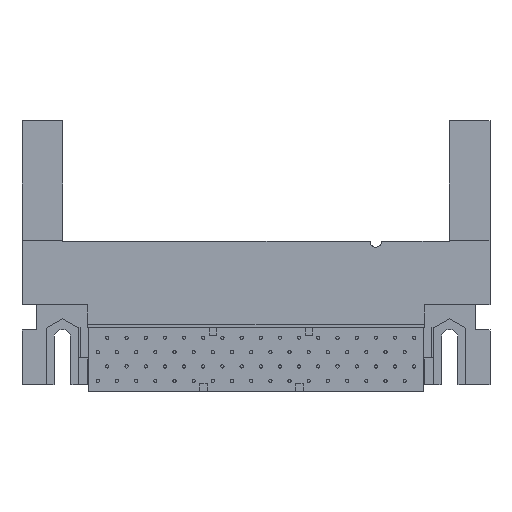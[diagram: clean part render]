
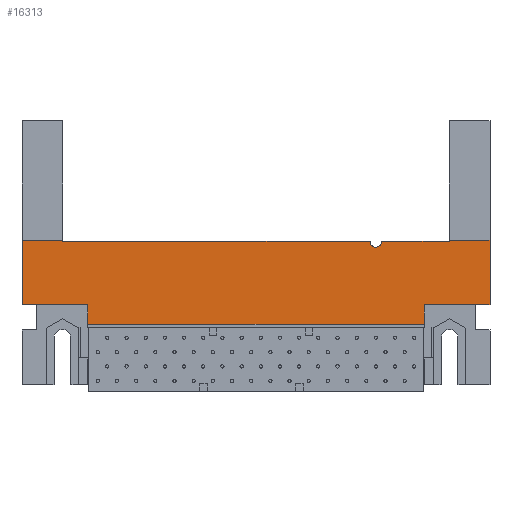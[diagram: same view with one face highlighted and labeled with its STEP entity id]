
A CAD part, front view. The second image highlights one B-rep face of the part: STEP entity #16313.
In plain terms, the highlighted planar face has unit normal (0, -1, 0).
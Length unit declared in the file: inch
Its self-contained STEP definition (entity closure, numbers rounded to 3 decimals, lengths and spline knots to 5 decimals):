
#2363=DIRECTION('',(0.,0.,1.));
#2364=VECTOR('',#2363,0.335);
#2365=CARTESIAN_POINT('',(1.22,0.012,0.024));
#2366=LINE('',#2365,#2364);
#2527=DIRECTION('',(0.,0.,1.));
#2528=VECTOR('',#2527,0.335);
#2529=CARTESIAN_POINT('',(-1.22,0.012,0.024));
#2530=LINE('',#2529,#2528);
#2633=DIRECTION('',(0.,0.,1.));
#2634=VECTOR('',#2633,0.005);
#2635=CARTESIAN_POINT('',(-1.0075,0.012,0.354));
#2636=LINE('',#2635,#2634);
#3501=DIRECTION('',(1.,0.,0.));
#3502=VECTOR('',#3501,1.752);
#3503=CARTESIAN_POINT('',(-0.876,0.012,-0.079));
#3504=LINE('',#3503,#3502);
#3683=DIRECTION('',(-1.,0.,0.));
#3684=VECTOR('',#3683,0.078);
#3685=CARTESIAN_POINT('',(-1.142,0.012,0.024));
#3686=LINE('',#3685,#3684);
#3699=DIRECTION('',(-1.,0.,0.));
#3700=VECTOR('',#3699,0.2125);
#3701=CARTESIAN_POINT('',(-1.0075,0.012,0.359));
#3702=LINE('',#3701,#3700);
#3703=DIRECTION('',(-1.,0.,0.));
#3704=VECTOR('',#3703,0.2125);
#3705=CARTESIAN_POINT('',(1.22,0.012,0.359));
#3706=LINE('',#3705,#3704);
#3707=DIRECTION('',(1.,0.,0.));
#3708=VECTOR('',#3707,0.266);
#3709=CARTESIAN_POINT('',(0.876,0.012,0.024));
#3710=LINE('',#3709,#3708);
#3711=DIRECTION('',(0.,0.,1.));
#3712=VECTOR('',#3711,0.103);
#3713=CARTESIAN_POINT('',(0.876,0.012,-0.079));
#3714=LINE('',#3713,#3712);
#3715=DIRECTION('',(0.,0.,-1.));
#3716=VECTOR('',#3715,0.103);
#3717=CARTESIAN_POINT('',(-0.876,0.012,0.024));
#3718=LINE('',#3717,#3716);
#3719=DIRECTION('',(1.,0.,0.));
#3720=VECTOR('',#3719,0.266);
#3721=CARTESIAN_POINT('',(-1.142,0.012,0.024));
#3722=LINE('',#3721,#3720);
#3739=DIRECTION('',(0.,0.,1.));
#3740=VECTOR('',#3739,0.005);
#3741=CARTESIAN_POINT('',(1.0075,0.012,0.354));
#3742=LINE('',#3741,#3740);
#3877=DIRECTION('',(1.,0.,0.));
#3878=VECTOR('',#3877,1.6025);
#3879=CARTESIAN_POINT('',(-1.0075,0.012,0.354));
#3880=LINE('',#3879,#3878);
#3893=DIRECTION('',(1.,0.,0.));
#3894=VECTOR('',#3893,0.3525);
#3895=CARTESIAN_POINT('',(0.655,0.012,0.354));
#3896=LINE('',#3895,#3894);
#3910=CARTESIAN_POINT('',(0.625,0.012,0.354));
#3911=DIRECTION('',(0.,1.,0.));
#3912=DIRECTION('',(1.,0.,0.));
#3913=AXIS2_PLACEMENT_3D('',#3910,#3911,#3912);
#3936=DIRECTION('',(-1.,0.,0.));
#3937=VECTOR('',#3936,0.078);
#3938=CARTESIAN_POINT('',(1.22,0.012,0.024));
#3939=LINE('',#3938,#3937);
#10576=CARTESIAN_POINT('',(-1.22,0.012,0.024));
#10577=CARTESIAN_POINT('',(-1.22,0.012,0.359));
#10578=VERTEX_POINT('',#10576);
#10579=VERTEX_POINT('',#10577);
#10580=CARTESIAN_POINT('',(-1.0075,0.012,0.354));
#10581=CARTESIAN_POINT('',(-1.0075,0.012,0.359));
#10582=VERTEX_POINT('',#10580);
#10583=VERTEX_POINT('',#10581);
#10584=CARTESIAN_POINT('',(0.595,0.012,0.354));
#10585=VERTEX_POINT('',#10584);
#10586=CARTESIAN_POINT('',(0.655,0.012,0.354));
#10587=CARTESIAN_POINT('',(1.0075,0.012,0.354));
#10588=VERTEX_POINT('',#10586);
#10589=VERTEX_POINT('',#10587);
#10590=CARTESIAN_POINT('',(1.0075,0.012,0.359));
#10591=VERTEX_POINT('',#10590);
#10592=CARTESIAN_POINT('',(-1.142,0.012,0.024));
#10593=VERTEX_POINT('',#10592);
#10594=CARTESIAN_POINT('',(1.22,0.012,0.024));
#10595=CARTESIAN_POINT('',(1.22,0.012,0.359));
#10596=VERTEX_POINT('',#10594);
#10597=VERTEX_POINT('',#10595);
#10598=CARTESIAN_POINT('',(1.142,0.012,0.024));
#10599=VERTEX_POINT('',#10598);
#10600=CARTESIAN_POINT('',(-0.876,0.012,-0.079));
#10601=CARTESIAN_POINT('',(0.876,0.012,-0.079));
#10602=VERTEX_POINT('',#10600);
#10603=VERTEX_POINT('',#10601);
#10604=CARTESIAN_POINT('',(0.876,0.012,0.024));
#10605=VERTEX_POINT('',#10604);
#10606=CARTESIAN_POINT('',(-0.876,0.012,0.024));
#10607=VERTEX_POINT('',#10606);
#16282=CARTESIAN_POINT('',(0.,0.012,0.));
#16283=DIRECTION('',(0.,-1.,0.));
#16284=DIRECTION('',(-1.,0.,0.));
#16285=AXIS2_PLACEMENT_3D('',#16282,#16283,#16284);
#16286=PLANE('',#16285);
#16287=ORIENTED_EDGE('',*,*,#15152,.T.);
#16289=ORIENTED_EDGE('',*,*,#16288,.F.);
#16290=ORIENTED_EDGE('',*,*,#15320,.F.);
#16292=ORIENTED_EDGE('',*,*,#16291,.T.);
#16294=ORIENTED_EDGE('',*,*,#16293,.F.);
#16296=ORIENTED_EDGE('',*,*,#16295,.T.);
#16298=ORIENTED_EDGE('',*,*,#16297,.T.);
#16300=ORIENTED_EDGE('',*,*,#16299,.F.);
#16301=ORIENTED_EDGE('',*,*,#14973,.F.);
#16303=ORIENTED_EDGE('',*,*,#16302,.T.);
#16305=ORIENTED_EDGE('',*,*,#16304,.F.);
#16306=ORIENTED_EDGE('',*,*,#15935,.F.);
#16307=ORIENTED_EDGE('',*,*,#15989,.F.);
#16308=ORIENTED_EDGE('',*,*,#16008,.F.);
#16309=ORIENTED_EDGE('',*,*,#16037,.F.);
#16310=ORIENTED_EDGE('',*,*,#16271,.T.);
#16311=EDGE_LOOP('',(#16287,#16289,#16290,#16292,#16294,#16296,#16298,#16300,
#16301,#16303,#16305,#16306,#16307,#16308,#16309,#16310));
#16312=FACE_OUTER_BOUND('',#16311,.F.);
#3914=CIRCLE('',#3913,0.03);
#14973=EDGE_CURVE('',#10596,#10597,#2366,.T.);
#15152=EDGE_CURVE('',#10578,#10579,#2530,.T.);
#15320=EDGE_CURVE('',#10582,#10583,#2636,.T.);
#15935=EDGE_CURVE('',#10603,#10605,#3714,.T.);
#15989=EDGE_CURVE('',#10602,#10603,#3504,.T.);
#16008=EDGE_CURVE('',#10607,#10602,#3718,.T.);
#16037=EDGE_CURVE('',#10593,#10607,#3722,.T.);
#16271=EDGE_CURVE('',#10593,#10578,#3686,.T.);
#16288=EDGE_CURVE('',#10583,#10579,#3702,.T.);
#16291=EDGE_CURVE('',#10582,#10585,#3880,.T.);
#16293=EDGE_CURVE('',#10588,#10585,#3914,.T.);
#16295=EDGE_CURVE('',#10588,#10589,#3896,.T.);
#16297=EDGE_CURVE('',#10589,#10591,#3742,.T.);
#16299=EDGE_CURVE('',#10597,#10591,#3706,.T.);
#16302=EDGE_CURVE('',#10596,#10599,#3939,.T.);
#16304=EDGE_CURVE('',#10605,#10599,#3710,.T.);
#16313=ADVANCED_FACE('',(#16312),#16286,.T.);
